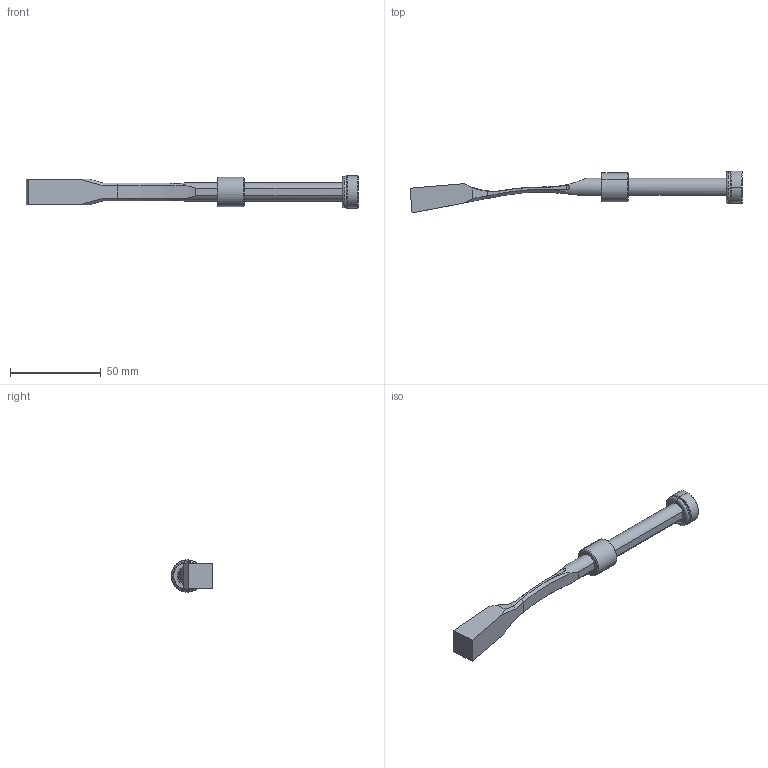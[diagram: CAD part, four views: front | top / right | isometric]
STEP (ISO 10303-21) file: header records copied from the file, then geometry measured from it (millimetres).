
FILE_DESCRIPTION (( 'STEP AP214' ), '1' );
FILE_NAME ('PW101430.STEP', '2020-02-10T08:48:29', ( '' ), ( '' ), 'SwSTEP 2.0', 'SolidWorks 2018', '' );
FILE_SCHEMA (( 'AUTOMOTIVE_DESIGN' ));
Length unit declared in the file: millimetre
Products named in the file (6): 1DIN7984616_DIN 7984 - M6 x 16 --- 16C; 9PW101430; 9CS101615; 9FP1808M6; 3JT12.5X2.5X17.5; PW101430
Assembly tree (5 placements, depth 2):
  PW101430
    9PW101430
    9CS101615
    9FP1808M6
    3JT12.5X2.5X17.5
    1DIN7984616_DIN 7984 - M6 x 16 --- 16C
Bounding box: 182.5 x 22.96 x 17.8 mm (x, y, z)
Volume: 17355.2 mm3; surface area: 10183.8 mm2
Topology: 5 solids, 5 shells, 108 faces, 245 edges, 146 vertices
Faces by surface type: plane 38, cone 28, cylinder 24, torus 16, bspline 2
Entity records: 3591 total; most frequent: CARTESIAN_POINT 709, DIRECTION 557, ORIENTED_EDGE 482, EDGE_CURVE 241, AXIS2_PLACEMENT_3D 224, VERTEX_POINT 146, EDGE_LOOP 117, CIRCLE 110
